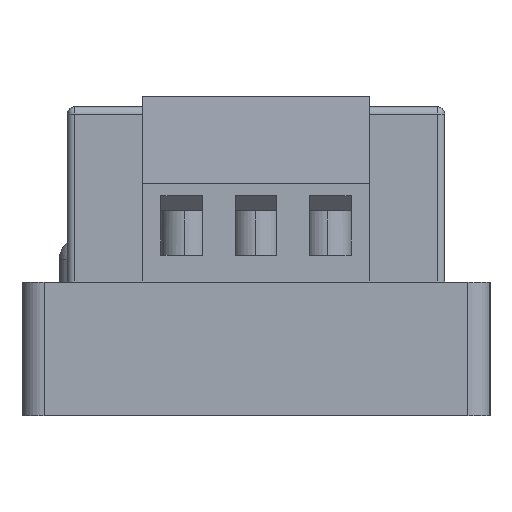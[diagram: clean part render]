
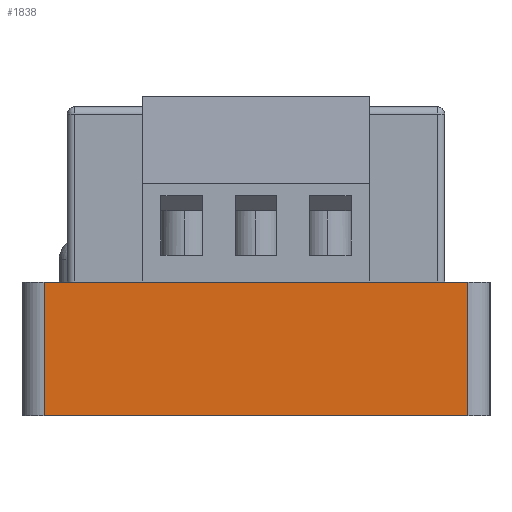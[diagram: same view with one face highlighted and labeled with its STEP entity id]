
A CAD part, left-side view. The second image highlights one B-rep face of the part: STEP entity #1838.
In plain terms, the highlighted planar face has unit normal (-1, 0, 0).
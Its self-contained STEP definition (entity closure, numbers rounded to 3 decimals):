
#397=LINE('',#6364,#643);
#398=LINE('',#6367,#644);
#399=LINE('',#6369,#645);
#400=LINE('',#6371,#646);
#643=VECTOR('',#5422,1.);
#644=VECTOR('',#5423,1.);
#645=VECTOR('',#5424,1.);
#646=VECTOR('',#5425,1.);
#1504=PLANE('',#4514);
#1657=FACE_OUTER_BOUND('',#2182,.T.);
#1838=ADVANCED_FACE('',(#1657),#1504,.F.);
#2182=EDGE_LOOP('',(#2951,#2952,#2953,#2954));
#2951=ORIENTED_EDGE('',*,*,#3709,.F.);
#2952=ORIENTED_EDGE('',*,*,#3710,.T.);
#2953=ORIENTED_EDGE('',*,*,#3711,.T.);
#2954=ORIENTED_EDGE('',*,*,#3712,.T.);
#3313=VERTEX_POINT('',#6365);
#3314=VERTEX_POINT('',#6366);
#3315=VERTEX_POINT('',#6368);
#3316=VERTEX_POINT('',#6370);
#3709=EDGE_CURVE('',#3313,#3314,#397,.T.);
#3710=EDGE_CURVE('',#3313,#3315,#398,.T.);
#3711=EDGE_CURVE('',#3315,#3316,#399,.T.);
#3712=EDGE_CURVE('',#3316,#3314,#400,.T.);
#4514=AXIS2_PLACEMENT_3D('',#6372,#5426,#5427);
#5422=DIRECTION('',(0.,-1.,0.));
#5423=DIRECTION('',(0.,0.,-1.));
#5424=DIRECTION('',(0.,-1.,0.));
#5425=DIRECTION('',(0.,0.,1.));
#5426=DIRECTION('',(1.,0.,0.));
#5427=DIRECTION('',(0.,-1.,0.));
#6364=CARTESIAN_POINT('',(-38.,-15.75,0.));
#6365=CARTESIAN_POINT('',(-38.,14.25,0.));
#6366=CARTESIAN_POINT('',(-38.,-14.25,0.));
#6367=CARTESIAN_POINT('',(-38.,14.25,0.));
#6368=CARTESIAN_POINT('',(-38.,14.25,-9.));
#6369=CARTESIAN_POINT('',(-38.,-15.75,-9.));
#6370=CARTESIAN_POINT('',(-38.,-14.25,-9.));
#6371=CARTESIAN_POINT('',(-38.,-14.25,0.));
#6372=CARTESIAN_POINT('',(-38.,-15.75,0.));
